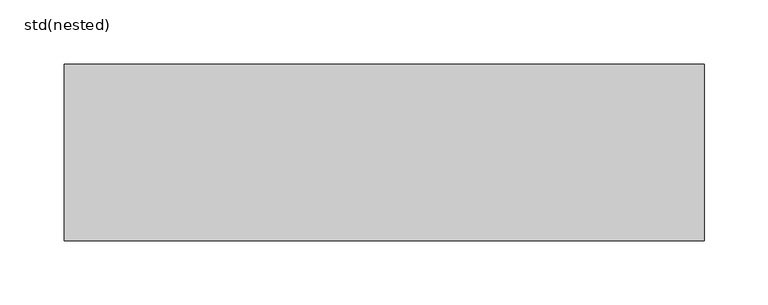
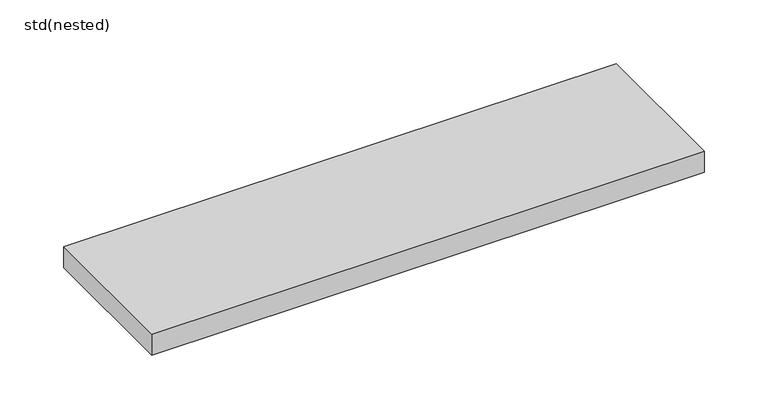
"""IFC4 building model written with IfcOpenShell, lengths in millimetres: sanitary terminal geometry, ZZZ_do not use_PF_ST_SlabDrain_H100SK_gratings_USA_ACO : std(nested)."""

from ifc_helpers import new_model, si_unit, frame, origin, place, context, project, spatial, polyline, outline, extrude, source, transform, mapped, element, save


def std_nested_902dce35(model_context):
    return source(origin(), model_context, "Body", "SweptSolid", [
        extrude(outline(polyline([(250.0, 69.0), (250.0, -69.0), (-250.0, -69.0), (-250.0, 69.0), (250.0, 69.0)])), frame((0.0, 0.0, -20.0), z_axis=(0.0, 0.0, 1.0), x_axis=(1.0, 0.0, 0.0)), (0.0, 0.0, 1.0), 20.0),
    ])


if __name__ == "__main__":
    model = new_model("IFC4")
    model_context = context("Model", 3, world=origin())
    ifc_project = project(units=[si_unit("LENGTHUNIT", "METRE", prefix="MILLI")], contexts=[model_context])
    site = spatial("IfcSite", under=ifc_project)
    building = spatial("IfcBuilding", under=site)
    placement = place(None, origin())
    std_nested_shape = std_nested_902dce35(model_context)
    element("IfcSanitaryTerminal", 1, ObjectType="ZZZ_do not use_PF_ST_SlabDrain_H100SK_gratings_USA_ACO : std(nested)", at=placement, inside=building, context=model_context, shape_type="MappedRepresentation", body=[
        mapped(std_nested_shape, transform((0.0, 0.0, 0.0), x_axis=(1.0, 0.0, 0.0), y_axis=(0.0, 1.0, 0.0), z_axis=(0.0, 0.0, 1.0))),
    ])
    save(model, "model.ifc")
